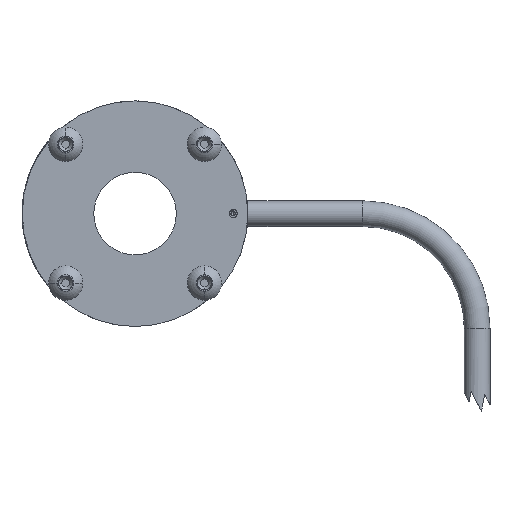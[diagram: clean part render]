
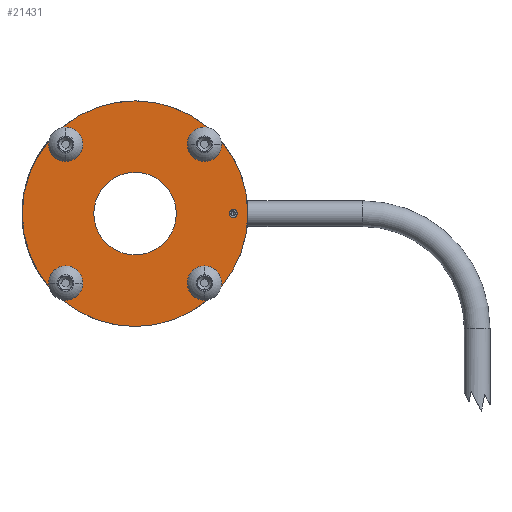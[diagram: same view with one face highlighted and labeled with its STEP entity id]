
A CAD part, front view. The second image highlights one B-rep face of the part: STEP entity #21431.
In plain terms, the highlighted planar face has unit normal (0, -1, 0).
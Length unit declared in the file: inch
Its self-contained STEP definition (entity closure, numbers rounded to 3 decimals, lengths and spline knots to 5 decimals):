
#35 = FACE_BOUND ( 'NONE', #9990, .T. ) ;
#48 = DIRECTION ( 'NONE',  ( 0., 1., 0. ) ) ;
#103 = DIRECTION ( 'NONE',  ( 0., 0., 1. ) ) ;
#171 = CARTESIAN_POINT ( 'NONE',  ( -0.36, 0., 0. ) ) ;
#312 = CARTESIAN_POINT ( 'NONE',  ( 0., 0., 0. ) ) ;
#391 = EDGE_CURVE ( 'NONE', #4989, #425, #8434, .T. ) ;
#425 = VERTEX_POINT ( 'NONE', #24823 ) ;
#438 = AXIS2_PLACEMENT_3D ( 'NONE', #11741, #21930, #1271 ) ;
#498 = ORIENTED_EDGE ( 'NONE', *, *, #3089, .F. ) ;
#632 = CARTESIAN_POINT ( 'NONE',  ( 0.60528, 0., -0.60528 ) ) ;
#707 = EDGE_LOOP ( 'NONE', ( #23442, #9568 ) ) ;
#712 = DIRECTION ( 'NONE',  ( 0., -1., 0. ) ) ;
#772 = VERTEX_POINT ( 'NONE', #6622 ) ;
#1115 = AXIS2_PLACEMENT_3D ( 'NONE', #1583, #26771, #16453 ) ;
#1271 = DIRECTION ( 'NONE',  ( 0., 0., -1. ) ) ;
#1325 = DIRECTION ( 'NONE',  ( 0., 0., 1. ) ) ;
#1514 = CARTESIAN_POINT ( 'NONE',  ( 0.856, 0., 0.035 ) ) ;
#1567 = DIRECTION ( 'NONE',  ( 0., 0., -1. ) ) ;
#1583 = CARTESIAN_POINT ( 'NONE',  ( 0., 0., 0. ) ) ;
#1593 = CIRCLE ( 'NONE', #8194, 0.98425 ) ;
#1720 = CIRCLE ( 'NONE', #24131, 0.06496 ) ;
#1851 = CARTESIAN_POINT ( 'NONE',  ( 0.60528, 0., 0.54032 ) ) ;
#2490 = EDGE_CURVE ( 'NONE', #425, #4989, #7495, .T. ) ;
#2502 = ORIENTED_EDGE ( 'NONE', *, *, #6706, .T. ) ;
#2515 = FACE_BOUND ( 'NONE', #8073, .T. ) ;
#2550 = EDGE_CURVE ( 'NONE', #772, #8578, #15826, .T. ) ;
#2590 = DIRECTION ( 'NONE',  ( 0., 1., 0. ) ) ;
#2880 = VERTEX_POINT ( 'NONE', #13774 ) ;
#3089 = EDGE_CURVE ( 'NONE', #10003, #17360, #22440, .T. ) ;
#3267 = CARTESIAN_POINT ( 'NONE',  ( 0.60528, 0., 0.60528 ) ) ;
#3584 = AXIS2_PLACEMENT_3D ( 'NONE', #22893, #16300, #1567 ) ;
#3929 = CARTESIAN_POINT ( 'NONE',  ( -0.60528, 0., -0.67024 ) ) ;
#4937 = DIRECTION ( 'NONE',  ( 0., 0., 1. ) ) ;
#4989 = VERTEX_POINT ( 'NONE', #1514 ) ;
#5132 = CARTESIAN_POINT ( 'NONE',  ( 0., 0., 0. ) ) ;
#5156 = CIRCLE ( 'NONE', #20531, 0.06496 ) ;
#5617 = CARTESIAN_POINT ( 'NONE',  ( 0.60528, 0., -0.60528 ) ) ;
#6169 = AXIS2_PLACEMENT_3D ( 'NONE', #5132, #9138, #21912 ) ;
#6281 = VERTEX_POINT ( 'NONE', #7068 ) ;
#6282 = EDGE_LOOP ( 'NONE', ( #13886, #13228 ) ) ;
#6391 = CARTESIAN_POINT ( 'NONE',  ( -0.60528, 0., -0.60528 ) ) ;
#6622 = CARTESIAN_POINT ( 'NONE',  ( 0., 0., 0.98425 ) ) ;
#6706 = EDGE_CURVE ( 'NONE', #6281, #6752, #8125, .T. ) ;
#6752 = VERTEX_POINT ( 'NONE', #3929 ) ;
#6791 = FACE_BOUND ( 'NONE', #707, .T. ) ;
#7068 = CARTESIAN_POINT ( 'NONE',  ( -0.60528, 0., -0.54032 ) ) ;
#7243 = AXIS2_PLACEMENT_3D ( 'NONE', #6391, #48, #8475 ) ;
#7274 = EDGE_CURVE ( 'NONE', #6752, #6281, #22590, .T. ) ;
#7346 = DIRECTION ( 'NONE',  ( 0., 1., 0. ) ) ;
#7495 = CIRCLE ( 'NONE', #18895, 0.035 ) ;
#8073 = EDGE_LOOP ( 'NONE', ( #498, #12326 ) ) ;
#8125 = CIRCLE ( 'NONE', #7243, 0.06496 ) ;
#8164 = DIRECTION ( 'NONE',  ( 0., 0., 1. ) ) ;
#8194 = AXIS2_PLACEMENT_3D ( 'NONE', #312, #25505, #19377 ) ;
#8434 = CIRCLE ( 'NONE', #3584, 0.035 ) ;
#8475 = DIRECTION ( 'NONE',  ( 0., 0., 1. ) ) ;
#8578 = VERTEX_POINT ( 'NONE', #18875 ) ;
#8865 = DIRECTION ( 'NONE',  ( 0., 1., 0. ) ) ;
#9056 = DIRECTION ( 'NONE',  ( 0., 1., 0. ) ) ;
#9138 = DIRECTION ( 'NONE',  ( 0., -1., 0. ) ) ;
#9568 = ORIENTED_EDGE ( 'NONE', *, *, #16394, .T. ) ;
#9745 = DIRECTION ( 'NONE',  ( 0., 1., 0. ) ) ;
#9835 = EDGE_CURVE ( 'NONE', #17360, #10003, #25301, .T. ) ;
#9990 = EDGE_LOOP ( 'NONE', ( #13477, #18481 ) ) ;
#10003 = VERTEX_POINT ( 'NONE', #27039 ) ;
#10117 = AXIS2_PLACEMENT_3D ( 'NONE', #23551, #7346, #19561 ) ;
#10148 = CARTESIAN_POINT ( 'NONE',  ( -0.60528, 0., 0.54032 ) ) ;
#10316 = EDGE_CURVE ( 'NONE', #8578, #772, #1593, .T. ) ;
#10370 = ORIENTED_EDGE ( 'NONE', *, *, #10316, .T. ) ;
#10380 = DIRECTION ( 'NONE',  ( 0., 1., 0. ) ) ;
#10893 = CARTESIAN_POINT ( 'NONE',  ( -0.60528, 0., 0.60528 ) ) ;
#11054 = FACE_BOUND ( 'NONE', #6282, .T. ) ;
#11341 = ORIENTED_EDGE ( 'NONE', *, *, #7274, .T. ) ;
#11741 = CARTESIAN_POINT ( 'NONE',  ( 0., 0., 0. ) ) ;
#12079 = DIRECTION ( 'NONE',  ( 0., 1., 0. ) ) ;
#12186 = EDGE_LOOP ( 'NONE', ( #10370, #21198 ) ) ;
#12326 = ORIENTED_EDGE ( 'NONE', *, *, #9835, .F. ) ;
#12471 = EDGE_CURVE ( 'NONE', #15070, #21759, #18509, .T. ) ;
#13228 = ORIENTED_EDGE ( 'NONE', *, *, #391, .F. ) ;
#13297 = CARTESIAN_POINT ( 'NONE',  ( 0., 0., 0.36 ) ) ;
#13375 = AXIS2_PLACEMENT_3D ( 'NONE', #22591, #14619, #8164 ) ;
#13477 = ORIENTED_EDGE ( 'NONE', *, *, #21755, .T. ) ;
#13774 = CARTESIAN_POINT ( 'NONE',  ( 0.60528, 0., 0.67024 ) ) ;
#13881 = VERTEX_POINT ( 'NONE', #10148 ) ;
#13886 = ORIENTED_EDGE ( 'NONE', *, *, #2490, .F. ) ;
#14005 = DIRECTION ( 'NONE',  ( 0., 0., 1. ) ) ;
#14618 = EDGE_CURVE ( 'NONE', #26067, #13881, #15222, .T. ) ;
#14619 = DIRECTION ( 'NONE',  ( 0., 1., 0. ) ) ;
#14769 = FACE_OUTER_BOUND ( 'NONE', #12186, .T. ) ;
#14993 = AXIS2_PLACEMENT_3D ( 'NONE', #632, #9056, #103 ) ;
#15070 = VERTEX_POINT ( 'NONE', #21398 ) ;
#15222 = CIRCLE ( 'NONE', #16567, 0.06496 ) ;
#15826 = CIRCLE ( 'NONE', #6169, 0.98425 ) ;
#16300 = DIRECTION ( 'NONE',  ( 0., -1., 0. ) ) ;
#16394 = EDGE_CURVE ( 'NONE', #13881, #26067, #5156, .T. ) ;
#16453 = DIRECTION ( 'NONE',  ( 0., 0., -1. ) ) ;
#16567 = AXIS2_PLACEMENT_3D ( 'NONE', #17314, #2590, #4937 ) ;
#17126 = CIRCLE ( 'NONE', #24996, 0.06496 ) ;
#17314 = CARTESIAN_POINT ( 'NONE',  ( -0.60528, 0., 0.60528 ) ) ;
#17360 = VERTEX_POINT ( 'NONE', #13297 ) ;
#18262 = CARTESIAN_POINT ( 'NONE',  ( 0.60528, 0., -0.54032 ) ) ;
#18481 = ORIENTED_EDGE ( 'NONE', *, *, #12471, .T. ) ;
#18509 = CIRCLE ( 'NONE', #14993, 0.06496 ) ;
#18688 = VERTEX_POINT ( 'NONE', #1851 ) ;
#18875 = CARTESIAN_POINT ( 'NONE',  ( 0., 0., -0.98425 ) ) ;
#18895 = AXIS2_PLACEMENT_3D ( 'NONE', #19713, #712, #20118 ) ;
#19377 = DIRECTION ( 'NONE',  ( 0., 0., -1. ) ) ;
#19561 = DIRECTION ( 'NONE',  ( 0., 0., 1. ) ) ;
#19713 = CARTESIAN_POINT ( 'NONE',  ( 0.856, 0., 0. ) ) ;
#20118 = DIRECTION ( 'NONE',  ( 0., 0., -1. ) ) ;
#20531 = AXIS2_PLACEMENT_3D ( 'NONE', #10893, #9745, #1325 ) ;
#20660 = CIRCLE ( 'NONE', #10117, 0.06496 ) ;
#20742 = EDGE_CURVE ( 'NONE', #18688, #2880, #20660, .T. ) ;
#21099 = PLANE ( 'NONE',  #25452 ) ;
#21198 = ORIENTED_EDGE ( 'NONE', *, *, #2550, .T. ) ;
#21234 = EDGE_CURVE ( 'NONE', #2880, #18688, #1720, .T. ) ;
#21294 = ORIENTED_EDGE ( 'NONE', *, *, #20742, .T. ) ;
#21366 = FACE_BOUND ( 'NONE', #26361, .T. ) ;
#21398 = CARTESIAN_POINT ( 'NONE',  ( 0.60528, 0., -0.67024 ) ) ;
#21431 = ADVANCED_FACE ( 'NONE', ( #6791, #21366, #35, #25097, #2515, #14769, #11054 ), #21099, .F. ) ;
#21755 = EDGE_CURVE ( 'NONE', #21759, #15070, #17126, .T. ) ;
#21759 = VERTEX_POINT ( 'NONE', #18262 ) ;
#21912 = DIRECTION ( 'NONE',  ( 0., 0., -1. ) ) ;
#21930 = DIRECTION ( 'NONE',  ( 0., -1., 0. ) ) ;
#22387 = DIRECTION ( 'NONE',  ( 0., 0., 1. ) ) ;
#22440 = CIRCLE ( 'NONE', #438, 0.36 ) ;
#22590 = CIRCLE ( 'NONE', #13375, 0.06496 ) ;
#22591 = CARTESIAN_POINT ( 'NONE',  ( -0.60528, 0., -0.60528 ) ) ;
#22676 = ORIENTED_EDGE ( 'NONE', *, *, #21234, .T. ) ;
#22893 = CARTESIAN_POINT ( 'NONE',  ( 0.856, 0., 0. ) ) ;
#23289 = DIRECTION ( 'NONE',  ( 0., 0., 1. ) ) ;
#23442 = ORIENTED_EDGE ( 'NONE', *, *, #14618, .T. ) ;
#23551 = CARTESIAN_POINT ( 'NONE',  ( 0.60528, 0., 0.60528 ) ) ;
#24131 = AXIS2_PLACEMENT_3D ( 'NONE', #3267, #10380, #22387 ) ;
#24302 = EDGE_LOOP ( 'NONE', ( #2502, #11341 ) ) ;
#24823 = CARTESIAN_POINT ( 'NONE',  ( 0.856, 0., -0.035 ) ) ;
#24996 = AXIS2_PLACEMENT_3D ( 'NONE', #5617, #12079, #14005 ) ;
#25097 = FACE_BOUND ( 'NONE', #24302, .T. ) ;
#25301 = CIRCLE ( 'NONE', #1115, 0.36 ) ;
#25452 = AXIS2_PLACEMENT_3D ( 'NONE', #171, #8865, #23289 ) ;
#25505 = DIRECTION ( 'NONE',  ( 0., -1., 0. ) ) ;
#25769 = CARTESIAN_POINT ( 'NONE',  ( -0.60528, 0., 0.67024 ) ) ;
#26067 = VERTEX_POINT ( 'NONE', #25769 ) ;
#26361 = EDGE_LOOP ( 'NONE', ( #22676, #21294 ) ) ;
#26771 = DIRECTION ( 'NONE',  ( 0., -1., 0. ) ) ;
#27039 = CARTESIAN_POINT ( 'NONE',  ( 0., 0., -0.36 ) ) ;
